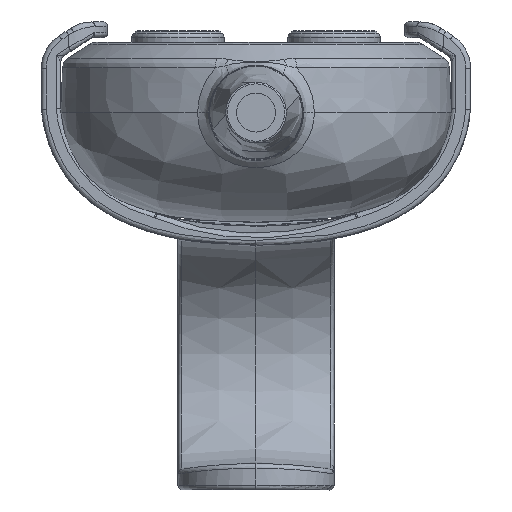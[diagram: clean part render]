
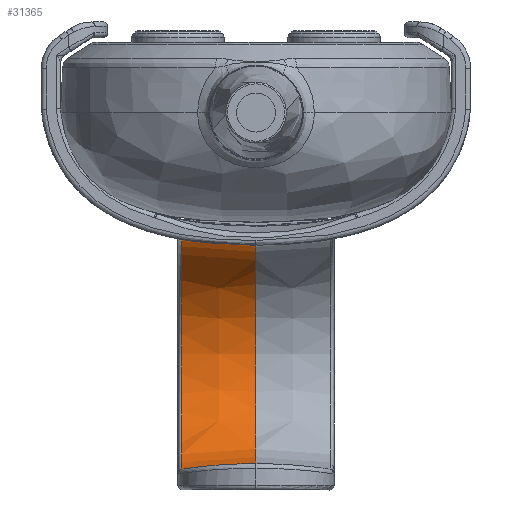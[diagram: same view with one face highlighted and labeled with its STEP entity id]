
A CAD part, front view. The second image highlights one B-rep face of the part: STEP entity #31365.
In plain terms, the highlighted free-form (B-spline) face has degree [3, 3] with [6, 4] control points.
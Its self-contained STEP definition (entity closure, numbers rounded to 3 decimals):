
#2964 = EDGE_CURVE ( 'NONE', #31118, #31100, #7411, .T. ) ;
#3046 = EDGE_CURVE ( 'NONE', #31108, #30942, #5320, .T. ) ;
#3055 = EDGE_CURVE ( 'NONE', #31118, #31108, #30468, .T. ) ;
#4211 = CARTESIAN_POINT ( 'NONE',  ( -1.575, 45., -38. ) ) ;
#4214 = CARTESIAN_POINT ( 'NONE',  ( -4.752, 45., -38.099 ) ) ;
#4220 = CARTESIAN_POINT ( 'NONE',  ( -7.881, 45., -38.457 ) ) ;
#4279 = CARTESIAN_POINT ( 'NONE',  ( 0., 45., -38. ) ) ;
#4297 = CARTESIAN_POINT ( 'NONE',  ( -9.439, 45., -38.724 ) ) ;
#4299 = CARTESIAN_POINT ( 'NONE',  ( -9.503, 45., -38.736 ) ) ;
#4305 = CARTESIAN_POINT ( 'NONE',  ( 0., 45., -24. ) ) ;
#4313 = DIRECTION ( 'NONE',  ( -1., 0., 0. ) ) ;
#4314 = DIRECTION ( 'NONE',  ( 0., 0., 1. ) ) ;
#4382 = AXIS2_PLACEMENT_3D ( 'NONE', #4305, #4313, #4314 ) ;
#4490 = AXIS2_PLACEMENT_3D ( 'NONE', #21583, #21584, #21585 ) ;
#4770 = EDGE_LOOP ( 'NONE', ( #5769, #5768, #5767, #5766 ) ) ;
#5320 = B_SPLINE_CURVE_WITH_KNOTS ( 'NONE', 3,
 ( #4279, #4211, #4214, #4220, #4297, #4299 ),
 .UNSPECIFIED., .F., .F.,
 ( 4, 1, 1, 4 ),
 ( 0., 0.125, 0.251, 0.256 ),
 .UNSPECIFIED. ) ;
#5766 = ORIENTED_EDGE ( 'NONE', *, *, #3055, .F. ) ;
#5767 = ORIENTED_EDGE ( 'NONE', *, *, #3046, .F. ) ;
#5768 = ORIENTED_EDGE ( 'NONE', *, *, #17488, .T. ) ;
#5769 = ORIENTED_EDGE ( 'NONE', *, *, #2964, .T. ) ;
#7411 = B_SPLINE_CURVE_WITH_KNOTS ( 'NONE', 3,
 ( #7566, #7560, #7559, #7558, #7557, #7556 ),
 .UNSPECIFIED., .F., .F.,
 ( 4, 1, 1, 4 ),
 ( 0., 0.125, 0.251, 0.256 ),
 .UNSPECIFIED. ) ;
#7556 = CARTESIAN_POINT ( 'NONE',  ( -9.503, 45., -9.265 ) ) ;
#7557 = CARTESIAN_POINT ( 'NONE',  ( -9.439, 45., -9.276 ) ) ;
#7558 = CARTESIAN_POINT ( 'NONE',  ( -7.881, 45., -9.544 ) ) ;
#7559 = CARTESIAN_POINT ( 'NONE',  ( -4.752, 45., -9.902 ) ) ;
#7560 = CARTESIAN_POINT ( 'NONE',  ( -1.575, 45., -10. ) ) ;
#7566 = CARTESIAN_POINT ( 'NONE',  ( 0., 45., -10. ) ) ;
#7772 =( BOUNDED_SURFACE ( )  B_SPLINE_SURFACE ( 3, 3, ( 
 ( #20058, #20034, #20035, #20060 ),
 ( #20061, #20062, #20063, #20064 ),
 ( #20065, #20066, #20067, #20068 ),
 ( #20069, #20070, #20071, #20072 ),
 ( #20073, #20074, #20075, #20076 ),
 ( #20077, #20078, #20079, #20080 ) ),
 .UNSPECIFIED., .F., .F., .T. ) 
 B_SPLINE_SURFACE_WITH_KNOTS ( ( 4, 1, 1, 4 ),
 ( 4, 4 ),
 ( 0., 0.125, 0.251, 0.256 ),
 ( 0., 1. ),
 .UNSPECIFIED. ) 
 GEOMETRIC_REPRESENTATION_ITEM ( )  RATIONAL_B_SPLINE_SURFACE ( (
 ( 1., 0.333, 0.333, 1.),
 ( 1., 0.333, 0.333, 1.),
 ( 1., 0.333, 0.333, 1.),
 ( 1., 0.333, 0.333, 1.),
 ( 1., 0.333, 0.333, 1.),
 ( 1., 0.333, 0.333, 1.) ) ) 
 REPRESENTATION_ITEM ( '' )  SURFACE ( )  );
#12886 = CIRCLE ( 'NONE', #4490, 14.735 ) ;
#13530 = CARTESIAN_POINT ( 'NONE',  ( -9.503, 45., -38.736 ) ) ;
#13606 = CARTESIAN_POINT ( 'NONE',  ( -9.503, 45., -9.265 ) ) ;
#13613 = CARTESIAN_POINT ( 'NONE',  ( 0., 45., -38. ) ) ;
#13621 = CARTESIAN_POINT ( 'NONE',  ( 0., 45., -10. ) ) ;
#17488 = EDGE_CURVE ( 'NONE', #31100, #30942, #12886, .T. ) ;
#20034 = CARTESIAN_POINT ( 'NONE',  ( 0., 73., -10. ) ) ;
#20035 = CARTESIAN_POINT ( 'NONE',  ( 0., 73., -38. ) ) ;
#20058 = CARTESIAN_POINT ( 'NONE',  ( 0., 45., -10. ) ) ;
#20060 = CARTESIAN_POINT ( 'NONE',  ( 0., 45., -38. ) ) ;
#20061 = CARTESIAN_POINT ( 'NONE',  ( -1.575, 45., -10. ) ) ;
#20062 = CARTESIAN_POINT ( 'NONE',  ( -1.575, 73., -10. ) ) ;
#20063 = CARTESIAN_POINT ( 'NONE',  ( -1.575, 73., -38. ) ) ;
#20064 = CARTESIAN_POINT ( 'NONE',  ( -1.575, 45., -38. ) ) ;
#20065 = CARTESIAN_POINT ( 'NONE',  ( -4.752, 45., -9.902 ) ) ;
#20066 = CARTESIAN_POINT ( 'NONE',  ( -4.752, 73.197, -9.902 ) ) ;
#20067 = CARTESIAN_POINT ( 'NONE',  ( -4.752, 73.197, -38.099 ) ) ;
#20068 = CARTESIAN_POINT ( 'NONE',  ( -4.752, 45., -38.099 ) ) ;
#20069 = CARTESIAN_POINT ( 'NONE',  ( -7.881, 45., -9.544 ) ) ;
#20070 = CARTESIAN_POINT ( 'NONE',  ( -7.881, 73.912, -9.544 ) ) ;
#20071 = CARTESIAN_POINT ( 'NONE',  ( -7.881, 73.912, -38.457 ) ) ;
#20072 = CARTESIAN_POINT ( 'NONE',  ( -7.881, 45., -38.457 ) ) ;
#20073 = CARTESIAN_POINT ( 'NONE',  ( -9.439, 45., -9.276 ) ) ;
#20074 = CARTESIAN_POINT ( 'NONE',  ( -9.439, 74.448, -9.276 ) ) ;
#20075 = CARTESIAN_POINT ( 'NONE',  ( -9.439, 74.448, -38.724 ) ) ;
#20076 = CARTESIAN_POINT ( 'NONE',  ( -9.439, 45., -38.724 ) ) ;
#20077 = CARTESIAN_POINT ( 'NONE',  ( -9.503, 45., -9.265 ) ) ;
#20078 = CARTESIAN_POINT ( 'NONE',  ( -9.503, 74.47, -9.265 ) ) ;
#20079 = CARTESIAN_POINT ( 'NONE',  ( -9.503, 74.47, -38.736 ) ) ;
#20080 = CARTESIAN_POINT ( 'NONE',  ( -9.503, 45., -38.736 ) ) ;
#20237 = FACE_OUTER_BOUND ( 'NONE', #4770, .T. ) ;
#21583 = CARTESIAN_POINT ( 'NONE',  ( -9.503, 45., -24. ) ) ;
#21584 = DIRECTION ( 'NONE',  ( -1., 0., 0. ) ) ;
#21585 = DIRECTION ( 'NONE',  ( 0., 0., 1. ) ) ;
#30468 = CIRCLE ( 'NONE', #4382, 14. ) ;
#30942 = VERTEX_POINT ( 'NONE', #13530 ) ;
#31100 = VERTEX_POINT ( 'NONE', #13606 ) ;
#31108 = VERTEX_POINT ( 'NONE', #13613 ) ;
#31118 = VERTEX_POINT ( 'NONE', #13621 ) ;
#31365 = ADVANCED_FACE ( 'NONE', ( #20237 ), #7772, .T. ) ;
